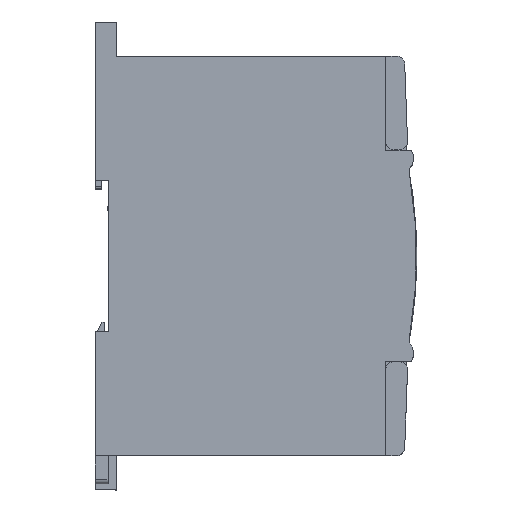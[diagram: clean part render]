
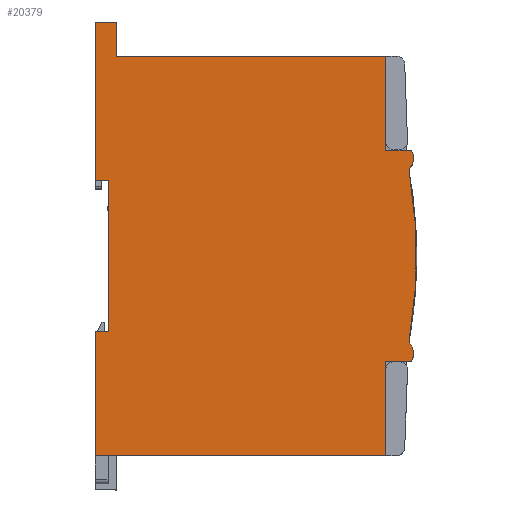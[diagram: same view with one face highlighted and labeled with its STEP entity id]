
A CAD part, top view. The second image highlights one B-rep face of the part: STEP entity #20379.
In plain terms, the highlighted planar face has unit normal (0, 0, 1) as drawn and (-1, 0, 0) by its records, which use the part's own axes.
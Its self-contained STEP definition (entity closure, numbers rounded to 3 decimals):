
#17127 = ORIENTED_EDGE ( 'NONE', *, *, #19130, .F. ) ;
#17238 = ORIENTED_EDGE ( 'NONE', *, *, #20377, .F. ) ;
#17241 = ORIENTED_EDGE ( 'NONE', *, *, #19033, .F. ) ;
#17283 = VERTEX_POINT ( 'NONE', #24636 ) ;
#17352 = ORIENTED_EDGE ( 'NONE', *, *, #20408, .F. ) ;
#18776 = VERTEX_POINT ( 'NONE', #36749 ) ;
#18787 = EDGE_CURVE ( 'NONE', #18833, #18854, #36872, .T. ) ;
#18804 = VERTEX_POINT ( 'NONE', #36893 ) ;
#18819 = EDGE_CURVE ( 'NONE', #18776, #18804, #36926, .T. ) ;
#18833 = VERTEX_POINT ( 'NONE', #36940 ) ;
#18854 = VERTEX_POINT ( 'NONE', #37032 ) ;
#19019 = VERTEX_POINT ( 'NONE', #37979 ) ;
#19020 = VERTEX_POINT ( 'NONE', #37991 ) ;
#19033 = EDGE_CURVE ( 'NONE', #19019, #19020, #37963, .T. ) ;
#19130 = EDGE_CURVE ( 'NONE', #19020, #19172, #38588, .T. ) ;
#19172 = VERTEX_POINT ( 'NONE', #38705 ) ;
#19272 = VERTEX_POINT ( 'NONE', #39195 ) ;
#19273 = VERTEX_POINT ( 'NONE', #39189 ) ;
#19281 = EDGE_CURVE ( 'NONE', #18776, #19272, #39207, .T. ) ;
#19285 = EDGE_CURVE ( 'NONE', #18854, #19273, #39180, .T. ) ;
#19335 = VERTEX_POINT ( 'NONE', #39460 ) ;
#19337 = EDGE_CURVE ( 'NONE', #19335, #19272, #39451, .T. ) ;
#19404 = VERTEX_POINT ( 'NONE', #39800 ) ;
#19454 = EDGE_CURVE ( 'NONE', #19273, #19404, #39973, .T. ) ;
#19455 = VERTEX_POINT ( 'NONE', #39968 ) ;
#19538 = EDGE_CURVE ( 'NONE', #19455, #19335, #40565, .T. ) ;
#20212 = VERTEX_POINT ( 'NONE', #44749 ) ;
#20241 = VERTEX_POINT ( 'NONE', #44817 ) ;
#20247 = EDGE_CURVE ( 'NONE', #20212, #20241, #44828, .T. ) ;
#20254 = VERTEX_POINT ( 'NONE', #44882 ) ;
#20297 = EDGE_CURVE ( 'NONE', #19404, #20254, #45052, .T. ) ;
#20319 = VERTEX_POINT ( 'NONE', #45224 ) ;
#20340 = EDGE_LOOP ( 'NONE', ( #20382, #17127, #17241, #17238, #17352, #20415, #20420, #20352, #20355, #20410, #20350, #20362, #20361, #20391, #20363, #20457, #20398, #20392 ) ) ;
#20350 = ORIENTED_EDGE ( 'NONE', *, *, #20247, .F. ) ;
#20352 = ORIENTED_EDGE ( 'NONE', *, *, #19337, .F. ) ;
#20353 = EDGE_CURVE ( 'NONE', #19455, #20241, #45391, .T. ) ;
#20355 = ORIENTED_EDGE ( 'NONE', *, *, #19538, .F. ) ;
#20357 = VERTEX_POINT ( 'NONE', #45376 ) ;
#20361 = ORIENTED_EDGE ( 'NONE', *, *, #20297, .F. ) ;
#20362 = ORIENTED_EDGE ( 'NONE', *, *, #20417, .T. ) ;
#20363 = ORIENTED_EDGE ( 'NONE', *, *, #19285, .F. ) ;
#20377 = EDGE_CURVE ( 'NONE', #17283, #19019, #45503, .T. ) ;
#20379 = ADVANCED_FACE ( 'NONE', ( #45438 ), #45442, .F. ) ;
#20382 = ORIENTED_EDGE ( 'NONE', *, *, #20384, .F. ) ;
#20384 = EDGE_CURVE ( 'NONE', #19172, #20319, #45508, .T. ) ;
#20391 = ORIENTED_EDGE ( 'NONE', *, *, #19454, .F. ) ;
#20392 = ORIENTED_EDGE ( 'NONE', *, *, #20400, .T. ) ;
#20395 = EDGE_CURVE ( 'NONE', #18833, #20357, #45531, .T. ) ;
#20398 = ORIENTED_EDGE ( 'NONE', *, *, #20395, .T. ) ;
#20400 = EDGE_CURVE ( 'NONE', #20357, #20319, #45600, .T. ) ;
#20408 = EDGE_CURVE ( 'NONE', #18804, #17283, #45596, .T. ) ;
#20410 = ORIENTED_EDGE ( 'NONE', *, *, #20353, .T. ) ;
#20415 = ORIENTED_EDGE ( 'NONE', *, *, #18819, .F. ) ;
#20417 = EDGE_CURVE ( 'NONE', #20212, #20254, #45634, .T. ) ;
#20420 = ORIENTED_EDGE ( 'NONE', *, *, #19281, .T. ) ;
#20457 = ORIENTED_EDGE ( 'NONE', *, *, #18787, .F. ) ;
#24636 = CARTESIAN_POINT ( 'NONE',  ( 0., 29.25, -75.6 ) ) ;
#36749 = CARTESIAN_POINT ( 'NONE',  ( 0., 0., -7.268 ) ) ;
#36863 = DIRECTION ( 'NONE',  ( 0., 0., 1. ) ) ;
#36864 = VECTOR ( 'NONE', #36863, 1000. ) ;
#36865 = CARTESIAN_POINT ( 'NONE',  ( 0., 94., -7.268 ) ) ;
#36872 = LINE ( 'NONE', #36865, #36864 ) ;
#36893 = CARTESIAN_POINT ( 'NONE',  ( 0., 0., -75.6 ) ) ;
#36923 = DIRECTION ( 'NONE',  ( 0., 0., -1. ) ) ;
#36924 = VECTOR ( 'NONE', #36923, 1000. ) ;
#36926 = LINE ( 'NONE', #36932, #36924 ) ;
#36932 = CARTESIAN_POINT ( 'NONE',  ( 0., 0., -75.6 ) ) ;
#36940 = CARTESIAN_POINT ( 'NONE',  ( 0., 94., -70.6 ) ) ;
#37032 = CARTESIAN_POINT ( 'NONE',  ( 0., 94., -7.268 ) ) ;
#37961 = DIRECTION ( 'NONE',  ( 0., 1., 0. ) ) ;
#37962 = VECTOR ( 'NONE', #37961, 1000. ) ;
#37963 = LINE ( 'NONE', #37981, #37962 ) ;
#37979 = CARTESIAN_POINT ( 'NONE',  ( 0., 29.25, -72.4 ) ) ;
#37981 = CARTESIAN_POINT ( 'NONE',  ( 0., 0., -72.4 ) ) ;
#37991 = CARTESIAN_POINT ( 'NONE',  ( 0., 64.75, -72.4 ) ) ;
#38581 = DIRECTION ( 'NONE',  ( 0., 0., -1. ) ) ;
#38582 = VECTOR ( 'NONE', #38581, 1000. ) ;
#38584 = CARTESIAN_POINT ( 'NONE',  ( 0., 64.75, -72.4 ) ) ;
#38588 = LINE ( 'NONE', #38584, #38582 ) ;
#38705 = CARTESIAN_POINT ( 'NONE',  ( 0., 64.75, -75.6 ) ) ;
#39168 = DIRECTION ( 'NONE',  ( 0., 1., 0. ) ) ;
#39171 = VECTOR ( 'NONE', #39168, 1000. ) ;
#39172 = CARTESIAN_POINT ( 'NONE',  ( 0., 0., -7.268 ) ) ;
#39180 = LINE ( 'NONE', #39285, #39283 ) ;
#39189 = CARTESIAN_POINT ( 'NONE',  ( 0., 71.8, -7.268 ) ) ;
#39195 = CARTESIAN_POINT ( 'NONE',  ( 0., 22.2, -7.268 ) ) ;
#39207 = LINE ( 'NONE', #39172, #39171 ) ;
#39281 = DIRECTION ( 'NONE',  ( 0., -1., 0. ) ) ;
#39283 = VECTOR ( 'NONE', #39281, 1000. ) ;
#39285 = CARTESIAN_POINT ( 'NONE',  ( 0., 94., -7.268 ) ) ;
#39451 = LINE ( 'NONE', #39499, #39561 ) ;
#39460 = CARTESIAN_POINT ( 'NONE',  ( 0., 22.2, -1.268 ) ) ;
#39499 = CARTESIAN_POINT ( 'NONE',  ( 0., 22.2, -1.268 ) ) ;
#39560 = DIRECTION ( 'NONE',  ( 0., 0., -1. ) ) ;
#39561 = VECTOR ( 'NONE', #39560, 1000. ) ;
#39800 = CARTESIAN_POINT ( 'NONE',  ( 0., 71.8, -1.268 ) ) ;
#39966 = DIRECTION ( 'NONE',  ( 0., 0., 1. ) ) ;
#39967 = VECTOR ( 'NONE', #39966, 1000. ) ;
#39968 = CARTESIAN_POINT ( 'NONE',  ( 0., 26.494, -1.694 ) ) ;
#39971 = CARTESIAN_POINT ( 'NONE',  ( 0., 71.8, -75.6 ) ) ;
#39973 = LINE ( 'NONE', #39971, #39967 ) ;
#40565 = CIRCLE ( 'NONE', #40664, 3.579 ) ;
#40659 = DIRECTION ( 'NONE',  ( 0., 0., -1. ) ) ;
#40660 = DIRECTION ( 'NONE',  ( 1., 0., 0. ) ) ;
#40662 = CARTESIAN_POINT ( 'NONE',  ( 0., 24.065, -4.323 ) ) ;
#40664 = AXIS2_PLACEMENT_3D ( 'NONE', #40662, #40660, #40659 ) ;
#44749 = CARTESIAN_POINT ( 'NONE',  ( 0., 66.487, -1.698 ) ) ;
#44817 = CARTESIAN_POINT ( 'NONE',  ( 0., 27.268, -1.741 ) ) ;
#44828 = CIRCLE ( 'NONE', #44894, 112.688 ) ;
#44882 = CARTESIAN_POINT ( 'NONE',  ( 0., 67.494, -1.705 ) ) ;
#44890 = DIRECTION ( 'NONE',  ( 0., 0., -1. ) ) ;
#44891 = DIRECTION ( 'NONE',  ( 1., 0., 0. ) ) ;
#44893 = CARTESIAN_POINT ( 'NONE',  ( 0., 47., -112.688 ) ) ;
#44894 = AXIS2_PLACEMENT_3D ( 'NONE', #44893, #44891, #44890 ) ;
#45052 = CIRCLE ( 'NONE', #45072, 3.579 ) ;
#45072 = AXIS2_PLACEMENT_3D ( 'NONE', #45115, #45100, #45099 ) ;
#45099 = DIRECTION ( 'NONE',  ( 0., 0., -1. ) ) ;
#45100 = DIRECTION ( 'NONE',  ( 1., 0., 0. ) ) ;
#45115 = CARTESIAN_POINT ( 'NONE',  ( 0., 69.935, -4.323 ) ) ;
#45224 = CARTESIAN_POINT ( 'NONE',  ( 0., 102., -75.6 ) ) ;
#45376 = CARTESIAN_POINT ( 'NONE',  ( 0., 102., -70.6 ) ) ;
#45381 = DIRECTION ( 'NONE',  ( 0., 0.998, -0.06 ) ) ;
#45383 = VECTOR ( 'NONE', #45381, 1000. ) ;
#45388 = CARTESIAN_POINT ( 'NONE',  ( 0., 69.935, -4.325 ) ) ;
#45391 = LINE ( 'NONE', #45388, #45383 ) ;
#45434 = CARTESIAN_POINT ( 'NONE',  ( 0., 69.935, -4.323 ) ) ;
#45438 = FACE_OUTER_BOUND ( 'NONE', #20340, .T. ) ;
#45442 = PLANE ( 'NONE',  #45493 ) ;
#45481 = DIRECTION ( 'NONE',  ( 0., 0., -1. ) ) ;
#45484 = DIRECTION ( 'NONE',  ( 1., 0., 0. ) ) ;
#45493 = AXIS2_PLACEMENT_3D ( 'NONE', #45434, #45484, #45481 ) ;
#45498 = DIRECTION ( 'NONE',  ( 0., 0., 1. ) ) ;
#45500 = VECTOR ( 'NONE', #45498, 1000. ) ;
#45502 = CARTESIAN_POINT ( 'NONE',  ( 0., 29.25, -75.6 ) ) ;
#45503 = LINE ( 'NONE', #45502, #45500 ) ;
#45508 = LINE ( 'NONE', #45557, #45556 ) ;
#45527 = DIRECTION ( 'NONE',  ( 0., 1., 0. ) ) ;
#45528 = VECTOR ( 'NONE', #45527, 1000. ) ;
#45530 = CARTESIAN_POINT ( 'NONE',  ( 0., 94., -70.6 ) ) ;
#45531 = LINE ( 'NONE', #45530, #45528 ) ;
#45554 = DIRECTION ( 'NONE',  ( 0., 1., 0. ) ) ;
#45556 = VECTOR ( 'NONE', #45554, 1000. ) ;
#45557 = CARTESIAN_POINT ( 'NONE',  ( 0., 22.2, -75.6 ) ) ;
#45594 = CARTESIAN_POINT ( 'NONE',  ( 0., 29.25, -75.6 ) ) ;
#45596 = LINE ( 'NONE', #45594, #45674 ) ;
#45599 = VECTOR ( 'NONE', #45608, 1000. ) ;
#45600 = LINE ( 'NONE', #45605, #45599 ) ;
#45605 = CARTESIAN_POINT ( 'NONE',  ( 0., 102., -70.6 ) ) ;
#45608 = DIRECTION ( 'NONE',  ( 0., 0., -1. ) ) ;
#45633 = CARTESIAN_POINT ( 'NONE',  ( 0., 69.955, -1.724 ) ) ;
#45634 = LINE ( 'NONE', #45633, #45722 ) ;
#45672 = DIRECTION ( 'NONE',  ( 0., 1., 0. ) ) ;
#45674 = VECTOR ( 'NONE', #45672, 1000. ) ;
#45721 = DIRECTION ( 'NONE',  ( 0., 1., -0.008 ) ) ;
#45722 = VECTOR ( 'NONE', #45721, 1000. ) ;
